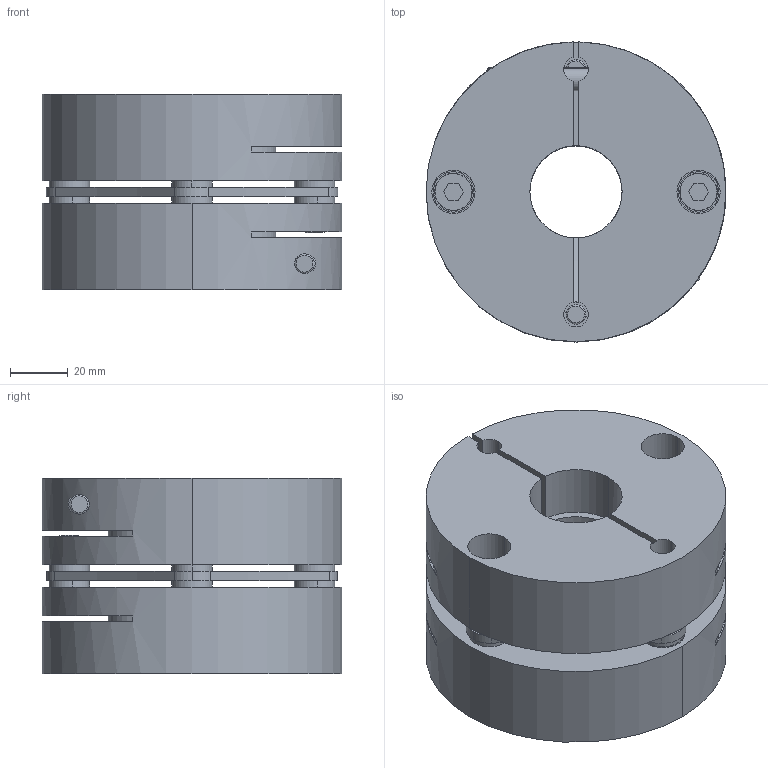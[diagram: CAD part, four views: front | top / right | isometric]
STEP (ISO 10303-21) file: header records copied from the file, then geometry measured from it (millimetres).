
FILE_DESCRIPTION (( 'STEP AP214' ), '1' );
FILE_NAME ('LC-A-100SA-32B-32B.STEP', '2019-09-12T07:22:54', ( 'admin' ), ( 'Microsoft' ), 'SwSTEP 2.0', 'SolidWorks 2016', '' );
FILE_SCHEMA (( 'AUTOMOTIVE_DESIGN' ));
Length unit declared in the file: millimetre
Products named in the file (1): LC-A-100SA-32B-32B
Bounding box: 104 x 104 x 67.71 mm (x, y, z)
Volume: 433052.6 mm3; surface area: 103224.9 mm2
Topology: 17 solids, 17 shells, 308 faces, 750 edges, 488 vertices
Faces by surface type: cylinder 154, plane 118, torus 24, cone 12
Entity records: 13316 total; most frequent: CARTESIAN_POINT 2087, DIRECTION 1708, ORIENTED_EDGE 1500, EDGE_CURVE 750, AXIS2_PLACEMENT_3D 681, VERTEX_POINT 488, EDGE_LOOP 378, CIRCLE 372
